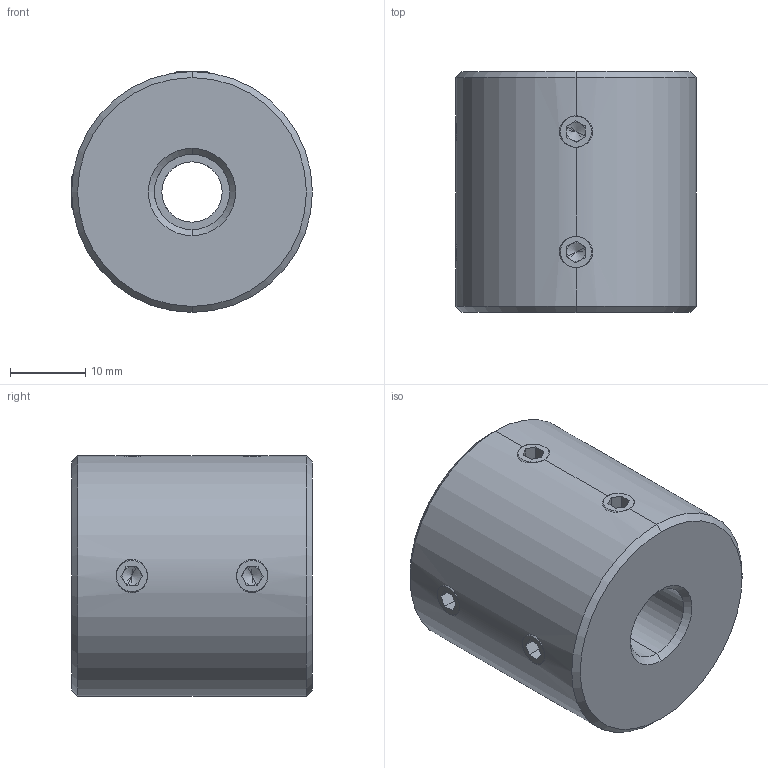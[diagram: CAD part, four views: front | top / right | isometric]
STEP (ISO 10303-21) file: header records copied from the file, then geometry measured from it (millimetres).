
FILE_DESCRIPTION (( 'STEP AP214' ), '1' );
FILE_NAME ('LL-D-D32L32-8-10½¨Ä£.STEP', '2022-07-22T11:24:26', ( '' ), ( '' ), 'SwSTEP 2.0', 'SolidWorks 2022', '' );
FILE_SCHEMA (( 'AUTOMOTIVE_DESIGN' ));
Length unit declared in the file: millimetre
Products named in the file (1): LL-D-D32L32-8-10膘耀
Bounding box: 32 x 32 x 32 mm (x, y, z)
Volume: 23342.5 mm3; surface area: 5805.6 mm2
Topology: 1 solids, 1 shells, 113 faces, 286 edges, 176 vertices
Faces by surface type: plane 59, cone 32, cylinder 22
Entity records: 3756 total; most frequent: CARTESIAN_POINT 1046, DIRECTION 558, ORIENTED_EDGE 556, EDGE_CURVE 278, AXIS2_PLACEMENT_3D 206, VERTEX_POINT 176, VECTOR 146, LINE 146
